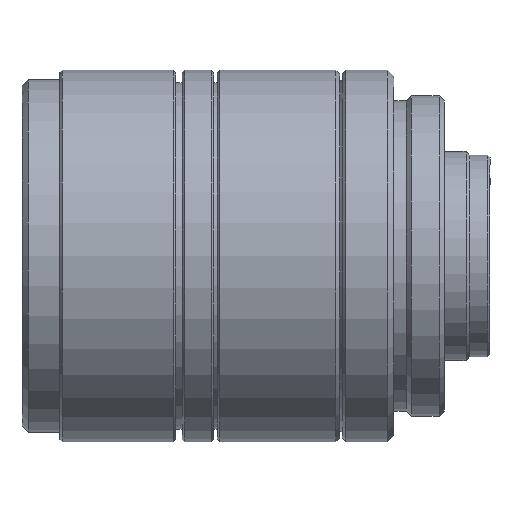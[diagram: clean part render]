
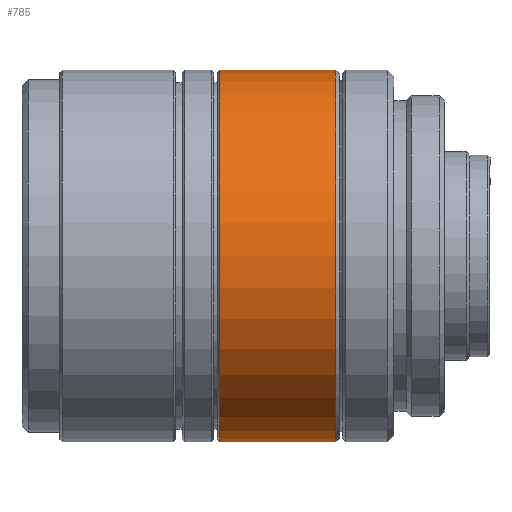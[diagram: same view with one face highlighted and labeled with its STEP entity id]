
A CAD part, top view. The second image highlights one B-rep face of the part: STEP entity #785.
In plain terms, the highlighted cylindrical face has radius 14.75 mm (diameter 29.5 mm), a partial arc.
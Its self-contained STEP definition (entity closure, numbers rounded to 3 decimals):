
#358 = DIRECTION ( 'NONE',  ( 0., 1., 0. ) ) ;
#364 = CARTESIAN_POINT ( 'NONE',  ( -31.3, 0., 0. ) ) ;
#365 = CARTESIAN_POINT ( 'NONE',  ( 0., -14.75, 0. ) ) ;
#366 = DIRECTION ( 'NONE',  ( 1., 0., 0. ) ) ;
#367 = DIRECTION ( 'NONE',  ( 0., 1., 0. ) ) ;
#369 = DIRECTION ( 'NONE',  ( 1., 0., 0. ) ) ;
#377 = DIRECTION ( 'NONE',  ( 1., 0., 0. ) ) ;
#378 = CARTESIAN_POINT ( 'NONE',  ( 0., 14.75, 0. ) ) ;
#380 = DIRECTION ( 'NONE',  ( 1., 0., 0. ) ) ;
#383 = CARTESIAN_POINT ( 'NONE',  ( -22.1, 0., 0. ) ) ;
#430 = EDGE_CURVE ( 'NONE', #438, #464, #1568, .T. ) ;
#432 = EDGE_CURVE ( 'NONE', #438, #2880, #1566, .T. ) ;
#433 = EDGE_CURVE ( 'NONE', #2880, #2894, #1565, .T. ) ;
#435 = EDGE_CURVE ( 'NONE', #464, #2894, #1573, .T. ) ;
#438 = VERTEX_POINT ( 'NONE', #1364 ) ;
#464 = VERTEX_POINT ( 'NONE', #1367 ) ;
#785 = ADVANCED_FACE ( 'NONE', ( #1604 ), #1613, .T. ) ;
#1315 = AXIS2_PLACEMENT_3D ( 'NONE', #364, #380, #358 ) ;
#1318 = AXIS2_PLACEMENT_3D ( 'NONE', #383, #366, #367 ) ;
#1364 = CARTESIAN_POINT ( 'NONE',  ( -31.3, 14.75, 0. ) ) ;
#1367 = CARTESIAN_POINT ( 'NONE',  ( -31.3, -14.75, 0. ) ) ;
#1565 = CIRCLE ( 'NONE', #1318, 14.75 ) ;
#1566 = LINE ( 'NONE', #378, #1572 ) ;
#1568 = CIRCLE ( 'NONE', #1315, 14.75 ) ;
#1572 = VECTOR ( 'NONE', #369, 1000. ) ;
#1573 = LINE ( 'NONE', #365, #1577 ) ;
#1577 = VECTOR ( 'NONE', #377, 1000. ) ;
#1604 = FACE_OUTER_BOUND ( 'NONE', #2598, .T. ) ;
#1613 = CYLINDRICAL_SURFACE ( 'NONE', #1812, 14.75 ) ;
#1812 = AXIS2_PLACEMENT_3D ( 'NONE', #2007, #2005, #2003 ) ;
#2003 = DIRECTION ( 'NONE',  ( 0., 1., 0. ) ) ;
#2005 = DIRECTION ( 'NONE',  ( 1., 0., 0. ) ) ;
#2007 = CARTESIAN_POINT ( 'NONE',  ( 0., 0., 0. ) ) ;
#2470 = ORIENTED_EDGE ( 'NONE', *, *, #435, .T. ) ;
#2471 = ORIENTED_EDGE ( 'NONE', *, *, #430, .T. ) ;
#2484 = ORIENTED_EDGE ( 'NONE', *, *, #432, .F. ) ;
#2497 = ORIENTED_EDGE ( 'NONE', *, *, #433, .F. ) ;
#2598 = EDGE_LOOP ( 'NONE', ( #2471, #2470, #2497, #2484 ) ) ;
#2880 = VERTEX_POINT ( 'NONE', #3272 ) ;
#2894 = VERTEX_POINT ( 'NONE', #3286 ) ;
#3272 = CARTESIAN_POINT ( 'NONE',  ( -22.1, 14.75, 0. ) ) ;
#3286 = CARTESIAN_POINT ( 'NONE',  ( -22.1, -14.75, 0. ) ) ;
